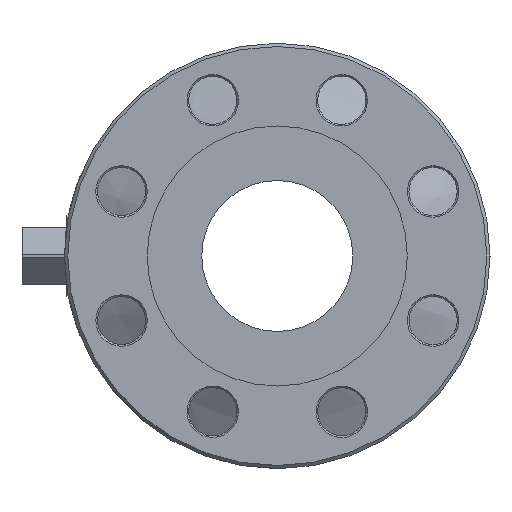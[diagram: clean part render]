
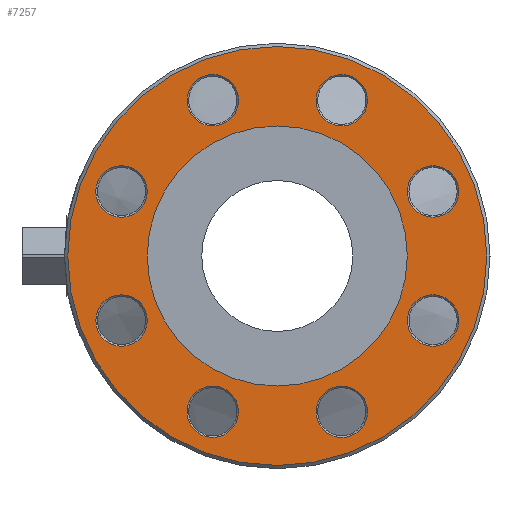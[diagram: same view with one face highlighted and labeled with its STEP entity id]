
A CAD part, left-side view. The second image highlights one B-rep face of the part: STEP entity #7257.
In plain terms, the highlighted planar face has unit normal (-1, 0, 0).
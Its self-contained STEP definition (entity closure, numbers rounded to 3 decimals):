
#7138=CARTESIAN_POINT('',(-142.5,28.868,-108.321));
#7139=VERTEX_POINT('',#7138);
#7140=CARTESIAN_POINT('',(-142.5,40.182,-97.007));
#7141=DIRECTION('',(-1.0,0.0,0.0));
#7142=DIRECTION('',(0.0,0.707,0.707));
#7143=AXIS2_PLACEMENT_3D('',#7140,#7141,#7142);
#7144=CIRCLE('',#7143,16.);
#7145=EDGE_CURVE('',#7139,#7139,#7144,.T.);
#7150=CARTESIAN_POINT('',(-142.5,-105.75,0.0));
#7151=DIRECTION('',(-1.0,0.0,0.0));
#7152=DIRECTION('',(0.0,0.0,1.0));
#7153=AXIS2_PLACEMENT_3D('',#7150,#7151,#7152);
#7154=PLANE('',#7153);
#7155=CARTESIAN_POINT('',(-142.5,-130.5,0.0));
#7156=VERTEX_POINT('',#7155);
#7157=CARTESIAN_POINT('',(-142.5,0.0,0.0));
#7158=DIRECTION('',(1.0,0.0,0.0));
#7159=DIRECTION('',(0.0,-1.0,0.0));
#7160=AXIS2_PLACEMENT_3D('',#7157,#7158,#7159);
#7161=CIRCLE('',#7160,130.5);
#7162=EDGE_CURVE('',#7156,#7156,#7161,.T.);
#7163=ORIENTED_EDGE('',*,*,#7162,.F.);
#7164=EDGE_LOOP('',(#7163));
#7165=FACE_OUTER_BOUND('',#7164,.T.);
#7166=CARTESIAN_POINT('',(-142.5,-56.182,-97.007));
#7167=VERTEX_POINT('',#7166);
#7168=CARTESIAN_POINT('',(-142.5,-40.182,-97.007));
#7169=DIRECTION('',(-1.0,0.0,0.0));
#7170=DIRECTION('',(0.0,1.0,0.0));
#7171=AXIS2_PLACEMENT_3D('',#7168,#7169,#7170);
#7172=CIRCLE('',#7171,16.0);
#7173=EDGE_CURVE('',#7167,#7167,#7172,.T.);
#7174=ORIENTED_EDGE('',*,*,#7173,.F.);
#7175=EDGE_LOOP('',(#7174));
#7176=FACE_BOUND('',#7175,.T.);
#7177=CARTESIAN_POINT('',(-142.5,-97.007,56.182));
#7178=VERTEX_POINT('',#7177);
#7179=CARTESIAN_POINT('',(-142.5,-97.007,40.182));
#7180=DIRECTION('',(-1.0,0.0,0.0));
#7181=DIRECTION('',(0.0,0.0,-1.0));
#7182=AXIS2_PLACEMENT_3D('',#7179,#7180,#7181);
#7183=CIRCLE('',#7182,16.0);
#7184=EDGE_CURVE('',#7178,#7178,#7183,.T.);
#7185=ORIENTED_EDGE('',*,*,#7184,.F.);
#7186=EDGE_LOOP('',(#7185));
#7187=FACE_BOUND('',#7186,.T.);
#7188=CARTESIAN_POINT('',(-142.5,56.182,97.007));
#7189=VERTEX_POINT('',#7188);
#7190=CARTESIAN_POINT('',(-142.5,40.182,97.007));
#7191=DIRECTION('',(-1.0,0.0,0.0));
#7192=DIRECTION('',(0.0,-1.0,0.0));
#7193=AXIS2_PLACEMENT_3D('',#7190,#7191,#7192);
#7194=CIRCLE('',#7193,16.0);
#7195=EDGE_CURVE('',#7189,#7189,#7194,.T.);
#7196=ORIENTED_EDGE('',*,*,#7195,.F.);
#7197=EDGE_LOOP('',(#7196));
#7198=FACE_BOUND('',#7197,.T.);
#7199=CARTESIAN_POINT('',(-142.5,97.007,-56.182));
#7200=VERTEX_POINT('',#7199);
#7201=CARTESIAN_POINT('',(-142.5,97.007,-40.182));
#7202=DIRECTION('',(-1.0,0.0,0.0));
#7203=DIRECTION('',(0.0,0.0,1.0));
#7204=AXIS2_PLACEMENT_3D('',#7201,#7202,#7203);
#7205=CIRCLE('',#7204,16.0);
#7206=EDGE_CURVE('',#7200,#7200,#7205,.T.);
#7207=ORIENTED_EDGE('',*,*,#7206,.F.);
#7208=EDGE_LOOP('',(#7207));
#7209=FACE_BOUND('',#7208,.T.);
#7210=CARTESIAN_POINT('',(-142.5,-81.,0.0));
#7211=VERTEX_POINT('',#7210);
#7212=CARTESIAN_POINT('',(-142.5,0.0,0.0));
#7213=DIRECTION('',(1.0,0.0,0.0));
#7214=DIRECTION('',(0.0,-1.0,0.0));
#7215=AXIS2_PLACEMENT_3D('',#7212,#7213,#7214);
#7216=CIRCLE('',#7215,81.);
#7217=EDGE_CURVE('',#7211,#7211,#7216,.T.);
#7218=ORIENTED_EDGE('',*,*,#7217,.T.);
#7219=EDGE_LOOP('',(#7218));
#7220=FACE_BOUND('',#7219,.T.);
#7221=CARTESIAN_POINT('',(-142.5,108.321,28.868));
#7222=VERTEX_POINT('',#7221);
#7223=CARTESIAN_POINT('',(-142.5,97.007,40.182));
#7224=DIRECTION('',(-1.0,0.0,0.0));
#7225=DIRECTION('',(0.0,-0.707,0.707));
#7226=AXIS2_PLACEMENT_3D('',#7223,#7224,#7225);
#7227=CIRCLE('',#7226,16.);
#7228=EDGE_CURVE('',#7222,#7222,#7227,.T.);
#7229=ORIENTED_EDGE('',*,*,#7228,.F.);
#7230=EDGE_LOOP('',(#7229));
#7231=FACE_BOUND('',#7230,.T.);
#7232=CARTESIAN_POINT('',(-142.5,-28.868,108.321));
#7233=VERTEX_POINT('',#7232);
#7234=CARTESIAN_POINT('',(-142.5,-40.182,97.007));
#7235=DIRECTION('',(-1.0,0.0,0.0));
#7236=DIRECTION('',(0.0,-0.707,-0.707));
#7237=AXIS2_PLACEMENT_3D('',#7234,#7235,#7236);
#7238=CIRCLE('',#7237,16.);
#7239=EDGE_CURVE('',#7233,#7233,#7238,.T.);
#7240=ORIENTED_EDGE('',*,*,#7239,.F.);
#7241=EDGE_LOOP('',(#7240));
#7242=FACE_BOUND('',#7241,.T.);
#7243=CARTESIAN_POINT('',(-142.5,-108.321,-28.868));
#7244=VERTEX_POINT('',#7243);
#7245=CARTESIAN_POINT('',(-142.5,-97.007,-40.182));
#7246=DIRECTION('',(-1.0,0.0,0.0));
#7247=DIRECTION('',(0.0,0.707,-0.707));
#7248=AXIS2_PLACEMENT_3D('',#7245,#7246,#7247);
#7249=CIRCLE('',#7248,16.);
#7250=EDGE_CURVE('',#7244,#7244,#7249,.T.);
#7251=ORIENTED_EDGE('',*,*,#7250,.F.);
#7252=EDGE_LOOP('',(#7251));
#7253=FACE_BOUND('',#7252,.T.);
#7254=ORIENTED_EDGE('',*,*,#7145,.F.);
#7255=EDGE_LOOP('',(#7254));
#7256=FACE_BOUND('',#7255,.T.);
#7257=ADVANCED_FACE('',(#7165,#7176,#7187,#7198,#7209,#7220,#7231,#7242,#7253,#7256),#7154,.T.);
